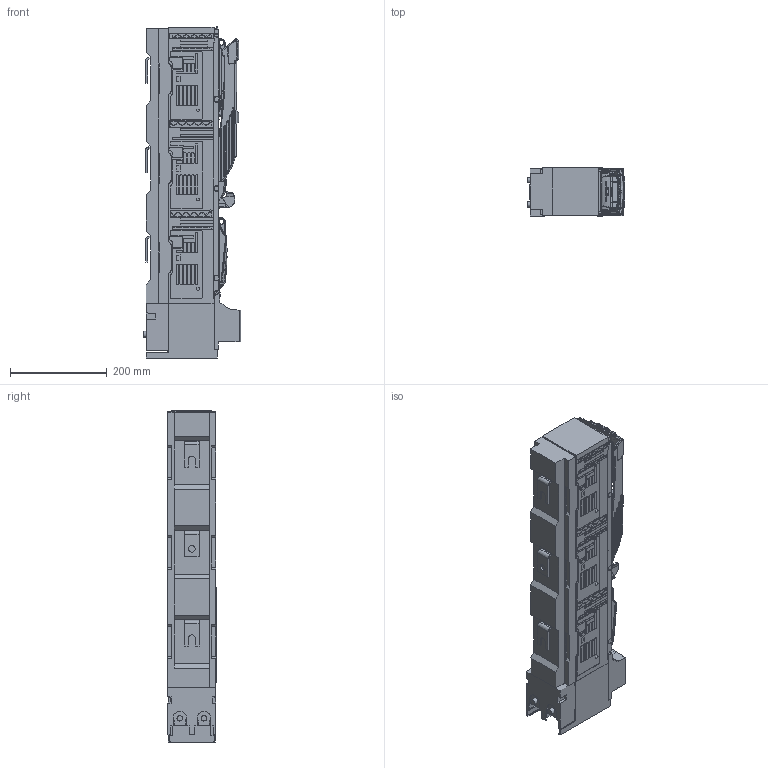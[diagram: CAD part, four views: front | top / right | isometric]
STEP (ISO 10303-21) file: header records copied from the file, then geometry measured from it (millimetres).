
FILE_DESCRIPTION(/* description */ (''),/* implementation_level */ '2;1');
FILE_NAME(/* name */ 'smartARS 2-6-M pro.stp',/* time_stamp */ '2018-07-16T09:51:46+02:00',/* author */ (''),/* organization */ (''),/* preprocessor_version */ 'ST-DEVELOPER v16',/* originating_system */ 'SIEMENS PLM Software NX 10.0',/* authorisation */ '');
FILE_SCHEMA (('AUTOMOTIVE_DESIGN { 1 0 10303 214 3 1 1 1 }'));
Products named in the file (1): 710_0AD4EC05y3iz
Bounding box: 202.19 x 100.23 x 686.8 mm (x, y, z)
Volume: 8701969.3 mm3; surface area: 701446 mm2
Topology: 1 solids, 19 shells, 7272 faces, 19392 edges, 12211 vertices
Faces by surface type: plane 2968, bspline 2322, cylinder 1011, extrusion 463, torus 199, cone 160, sphere 147, revolution 2
Full cylindrical faces by diameter (mm): 3 x4, 3.5 x4, 3.7 x4, 6.5 x1, 8 x1, 9.5 x4, 9.6 x2, 11.701 x6, 14 x1
Entity records: 360430 total; most frequent: CARTESIAN_POINT 164215, ORIENTED_EDGE 38384, DIRECTION 26232, EDGE_CURVE 19192, VERTEX_POINT 12196, VECTOR 9158, LINE 8695, AXIS2_PLACEMENT_3D 8536
